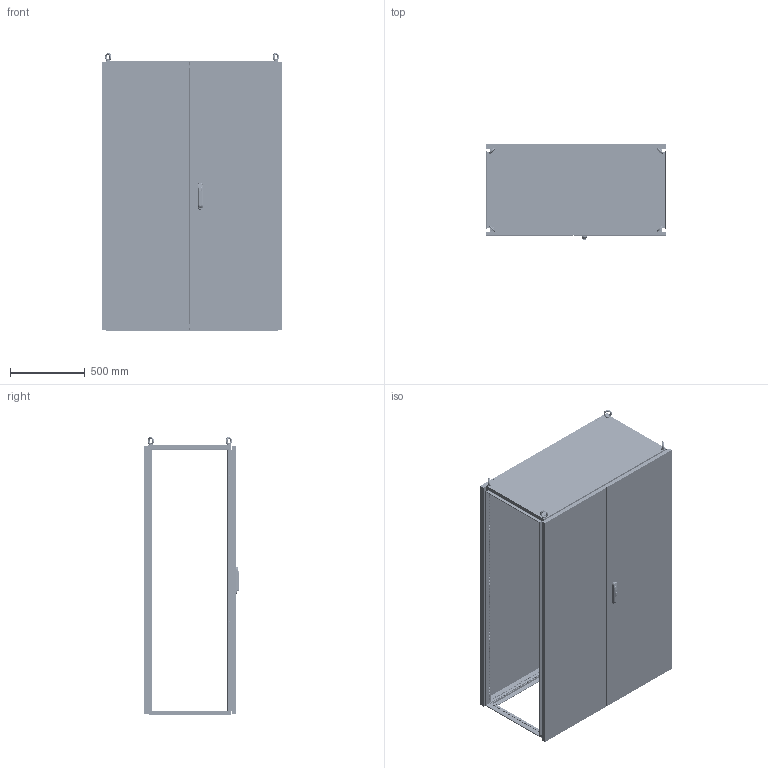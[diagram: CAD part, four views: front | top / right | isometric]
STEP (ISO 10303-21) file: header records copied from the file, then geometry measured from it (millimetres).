
FILE_DESCRIPTION(/* description */ ('Unknown'),/* implementation_level */ '2;1');
FILE_NAME(/* name */ 'MCA12018060',/* time_stamp */ '2025-03-07T10:52:20+01:00',/* author */ ('Unknown'),/* organization */ ('Unknown'),/* preprocessor_version */ 'ST-DEVELOPER v19.4',/* originating_system */ 'Solid Edge',/* authorisation */ 'Unknown');
FILE_SCHEMA (('CONFIG_CONTROL_DESIGN'));
Products named in the file (61): MCA12018060; F0000000.08; AE00198.03; F000X001.79; F000X001.11; F000X001.12; F0000000.91; AE00417.01; AE00413.05; F000X001.09; F0000002.21; F0000002.15; AE01400.01; AE00222.15; AE00636.02; AE00316.01; F0000000.12; AE00992.31; AE00992.10_oa_0; AE00992.18; AE00992.77; AE00992.14; AE00989.13; AE00992.16; AE00315.01; M000X002.02; M0000000.29; AE00500.10; M000X000.55; M0000000.38; M0000000.39; M0000000.06; M000X000.23; M0000000.40; M0000000.41; AE00219.03; C0000000.06; C0000001.23; C0000000.06_GOMMA; AE00715.01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
Assembly tree (284 placements, depth 5):
  MCA12018060
    F0000000.08  x8
    AE00198.03  x16
    F000X001.79
      F000X001.11
        F000X001.12
          F0000000.91
        AE00417.01  x2
        AE00413.05  x4
        F000X001.09
          F0000002.21  x2
          F0000002.15  x2
          AE01400.01  x4
      AE00222.15  x8
      AE00636.02  x8
      AE00316.01  x8
      F0000000.12  x8
      AE00992.31
      AE00992.10_oa_0
      AE00992.18  x4
      AE00992.77  x2
      AE00992.14
      AE00989.13
      AE00992.16
      AE00315.01  x4
    M000X002.02
      M0000000.29  x4
      AE00500.10  x52
      M000X000.55  x2
        M0000000.38
        M0000000.39
        M0000000.06
        M000X000.23
          M0000000.40
          M0000000.41
    AE00219.03  x10
    C0000000.06  x4
      C0000001.23
      C0000000.06_GOMMA
    AE00715.01  x4
    M000X000.56
      M0000000.60
    F0000000.13  x8
    F000X001.76
      F000X001.77
        F0000001.37
      F0000000.07  x2
      AE00100.03_oa_1
      AE00100.03_oa_2
      AE00100.03_oa_3
      AE00100.03_oa_4
    AE00701.03  x8
    M0000000.37  x10
    F000X001.78
      F000X001.07
        F000X001.08
          F0000000.89
        F000X001.09
          F0000002.21  x2
          F0000002.15  x2
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Bounding box: 1200 x 638.2 x 1856.98 mm (x, y, z)
Volume: 25600330.6 mm3; surface area: 19459335.7 mm2
Topology: 314 solids, 314 shells, 13485 faces, 38362 edges, 25715 vertices
Faces by surface type: plane 9447, cylinder 3211, cone 688, torus 90, bspline 25, sphere 24
Full cylindrical faces by diameter (mm): 2 x4, 2.6 x8, 3 x1, 3.2 x2, 3.242 x2, 4 x26, 4.134 x9, 4.25 x340, 4.5 x1166, 4.8 x8, 4.917 x74, 4.918 x16, 5 x20, 5.5 x2, 6 x88, 6.1 x40, 6.2 x17, 6.5 x24, 6.8 x2, 7.5 x4, 7.8 x4, 8 x12, 8.3 x16, 8.5 x2, 9 x52, 10 x1, 10.106 x8, 10.5 x16, 11.8 x16, 12 x22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
Entity records: 107699 total; most frequent: CARTESIAN_POINT 19258, ORIENTED_EDGE 16622, DIRECTION 16430, EDGE_CURVE 8311, LINE 6514, VECTOR 6514, VERTEX_POINT 5874, FACE_BOUND 5337
